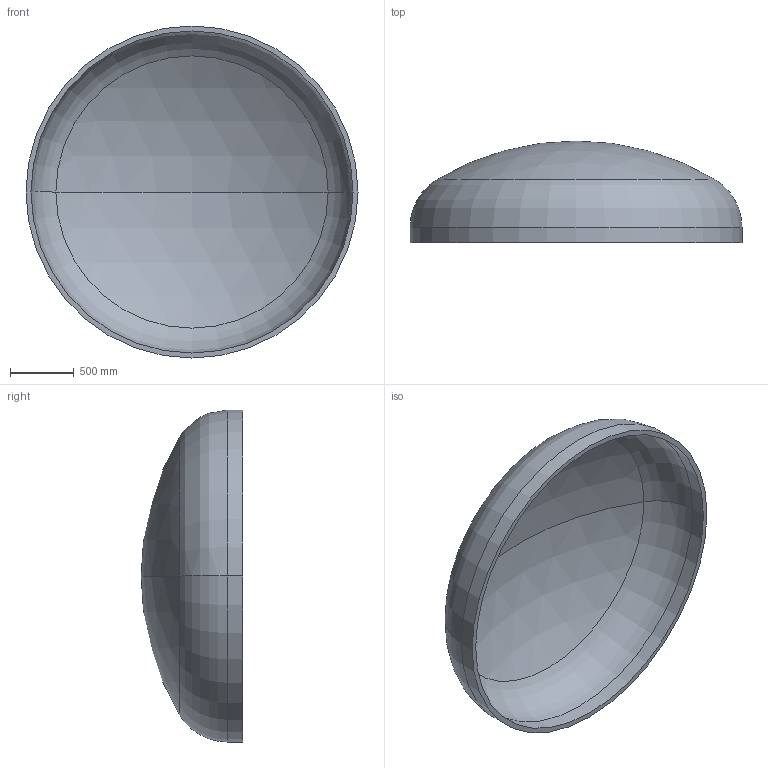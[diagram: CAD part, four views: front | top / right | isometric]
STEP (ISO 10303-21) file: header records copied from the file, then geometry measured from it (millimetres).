
FILE_DESCRIPTION (( 'STEP AP203' ), '1' );
FILE_NAME ('DIN 28013 Korbbogenform_-_Boden DIN 28013 - 2600 x 120 - I - s=39.step', '2016-07-01T16:09:50', ( '' ), ( '' ), 'SwSTEP 2.0', 'SolidWorks 2013', '' );
FILE_SCHEMA (( 'CONFIG_CONTROL_DESIGN' ));
Length unit declared in the file: millimetre
Products named in the file (1): DIN 28013 Korbbogenform_-_Boden DIN 28013 - 2600 x 120 - I - s=39
Bounding box: 2600 x 796.41 x 2600 mm (x, y, z)
Volume: 318751601.4 mm3; surface area: 16663195.1 mm2
Topology: 1 solids, 1 shells, 13 faces, 24 edges, 14 vertices
Faces by surface type: torus 4, cylinder 4, sphere 4, plane 1
Entity records: 407 total; most frequent: DIRECTION 72, CARTESIAN_POINT 52, ORIENTED_EDGE 48, AXIS2_PLACEMENT_3D 34, EDGE_CURVE 24, CIRCLE 20, EDGE_LOOP 14, VERTEX_POINT 14
